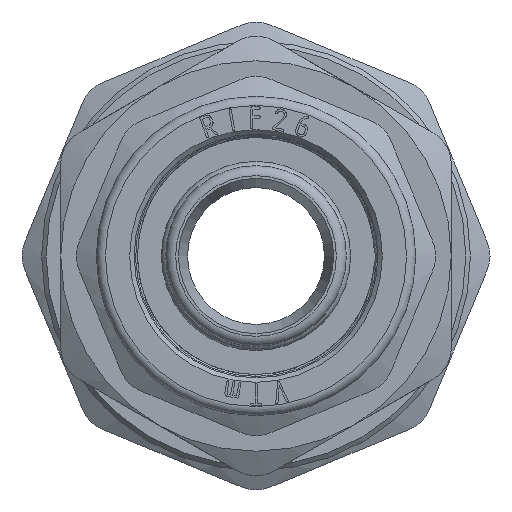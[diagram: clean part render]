
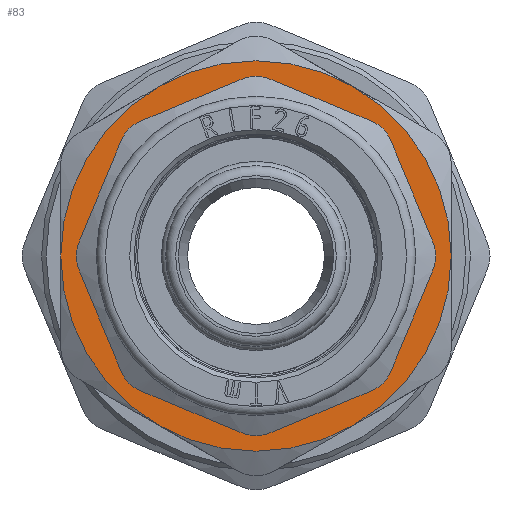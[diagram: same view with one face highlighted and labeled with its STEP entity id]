
A CAD part, front view. The second image highlights one B-rep face of the part: STEP entity #83.
In plain terms, the highlighted planar face has unit normal (0, -1, 0).
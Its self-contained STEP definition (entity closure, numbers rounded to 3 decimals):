
#83=ADVANCED_FACE('',(#925,#927),#929,.F.);
#925=FACE_BOUND('',#926,.T.);
#926=EDGE_LOOP('',(#5177,#5178,#5179));
#927=FACE_BOUND('',#928,.T.);
#928=EDGE_LOOP('',(#5180));
#929=PLANE('',#930);
#930=AXIS2_PLACEMENT_3D('',#931,#932,#933);
#931=CARTESIAN_POINT('',(0.,-3.5,0.));
#932=DIRECTION('',(0.,1.,0.));
#933=DIRECTION('',(-1.,0.,0.));
#5177=ORIENTED_EDGE('',*,*,#9045,.T.);
#5178=ORIENTED_EDGE('',*,*,#9046,.T.);
#5179=ORIENTED_EDGE('',*,*,#9047,.T.);
#5180=ORIENTED_EDGE('',*,*,#8895,.F.);
#8895=EDGE_CURVE('',#10487,#10487,#10488,.T.);
#9045=EDGE_CURVE('',#10779,#10780,#10781,.F.);
#9046=EDGE_CURVE('',#10780,#10782,#10783,.F.);
#9047=EDGE_CURVE('',#10782,#10779,#10784,.F.);
#10487=VERTEX_POINT('',#13217);
#10488=CIRCLE('',#13218,16.625);
#10779=VERTEX_POINT('',#14519);
#10780=VERTEX_POINT('',#14520);
#10781=CIRCLE('',#14521,21.4);
#10782=VERTEX_POINT('',#14525);
#10783=CIRCLE('',#14526,21.4);
#10784=CIRCLE('',#14530,21.4);
#13217=CARTESIAN_POINT('',(16.625,-3.5,0.));
#13218=AXIS2_PLACEMENT_3D('',#13219,#13220,#13221);
#13219=CARTESIAN_POINT('',(0.,-3.5,0.));
#13220=DIRECTION('',(0.,-1.,0.));
#13221=DIRECTION('',(1.,0.,0.));
#14519=CARTESIAN_POINT('',(21.4,-3.5,0.));
#14520=CARTESIAN_POINT('',(-10.7,-3.5,18.533));
#14521=AXIS2_PLACEMENT_3D('',#14522,#14523,#14524);
#14522=CARTESIAN_POINT('',(0.,-3.5,0.));
#14523=DIRECTION('',(0.,1.,0.));
#14524=DIRECTION('',(-0.5,0.,0.866));
#14525=CARTESIAN_POINT('',(-21.4,-3.5,0.));
#14526=AXIS2_PLACEMENT_3D('',#14527,#14528,#14529);
#14527=CARTESIAN_POINT('',(0.,-3.5,0.));
#14528=DIRECTION('',(0.,1.,0.));
#14529=DIRECTION('',(-1.,0.,0.));
#14530=AXIS2_PLACEMENT_3D('',#14531,#14532,#14533);
#14531=CARTESIAN_POINT('',(0.,-3.5,0.));
#14532=DIRECTION('',(0.,1.,0.));
#14533=DIRECTION('',(1.,0.,0.));
